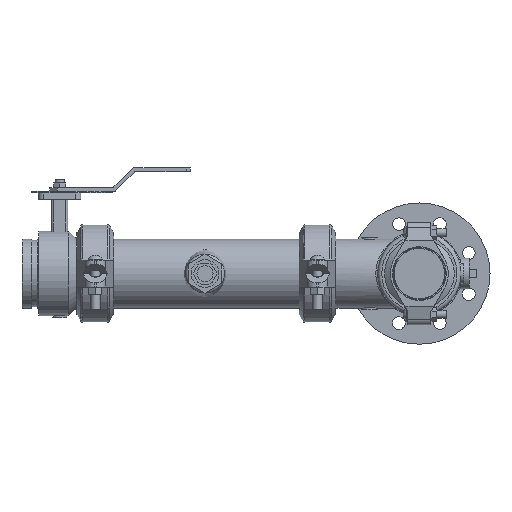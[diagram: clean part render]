
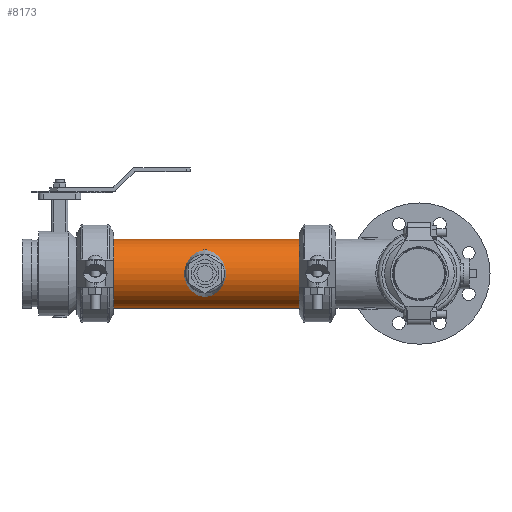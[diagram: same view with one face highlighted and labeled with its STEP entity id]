
A CAD part, left-side view. The second image highlights one B-rep face of the part: STEP entity #8173.
In plain terms, the highlighted cylindrical face has radius 57.15 mm (diameter 114.3 mm), a full revolution.
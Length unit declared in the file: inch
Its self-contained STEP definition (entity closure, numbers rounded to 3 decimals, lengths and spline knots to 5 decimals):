
#699=FACE_OUTER_BOUND('',#1201,.T.);
#1201=EDGE_LOOP('',(#6028,#6029,#6030,#6031,#6032,#6033));
#1747=CIRCLE('',#9020,2.25);
#1748=CIRCLE('',#9021,2.25);
#1749=CIRCLE('',#9023,2.25);
#1750=CIRCLE('',#9024,2.25);
#2214=LINE('',#13841,#2805);
#2805=VECTOR('',#10602,2.25);
#3509=VERTEX_POINT('',#13832);
#3510=VERTEX_POINT('',#13833);
#3511=VERTEX_POINT('',#13837);
#3512=VERTEX_POINT('',#13838);
#4421=EDGE_CURVE('',#3509,#3510,#1747,.T.);
#4422=EDGE_CURVE('',#3510,#3509,#1748,.T.);
#4423=EDGE_CURVE('',#3511,#3512,#1749,.T.);
#4424=EDGE_CURVE('',#3512,#3511,#1750,.T.);
#4425=EDGE_CURVE('',#3512,#3510,#2214,.T.);
#6028=ORIENTED_EDGE('',*,*,#4423,.F.);
#6029=ORIENTED_EDGE('',*,*,#4424,.F.);
#6030=ORIENTED_EDGE('',*,*,#4425,.T.);
#6031=ORIENTED_EDGE('',*,*,#4422,.T.);
#6032=ORIENTED_EDGE('',*,*,#4421,.T.);
#6033=ORIENTED_EDGE('',*,*,#4425,.F.);
#7453=CYLINDRICAL_SURFACE('',#9022,2.25);
#8173=ADVANCED_FACE('',(#699),#7453,.T.);
#9020=AXIS2_PLACEMENT_3D('',#13834,#10592,#10593);
#9021=AXIS2_PLACEMENT_3D('',#13835,#10594,#10595);
#9022=AXIS2_PLACEMENT_3D('',#13836,#10596,#10597);
#9023=AXIS2_PLACEMENT_3D('',#13839,#10598,#10599);
#9024=AXIS2_PLACEMENT_3D('',#13840,#10600,#10601);
#10592=DIRECTION('center_axis',(0.,-1.,0.));
#10593=DIRECTION('ref_axis',(1.,0.,0.));
#10594=DIRECTION('center_axis',(0.,-1.,0.));
#10595=DIRECTION('ref_axis',(1.,0.,0.));
#10596=DIRECTION('center_axis',(0.,-1.,0.));
#10597=DIRECTION('ref_axis',(1.,0.,0.));
#10598=DIRECTION('center_axis',(0.,-1.,0.));
#10599=DIRECTION('ref_axis',(1.,0.,0.));
#10600=DIRECTION('center_axis',(0.,-1.,0.));
#10601=DIRECTION('ref_axis',(1.,0.,0.));
#10602=DIRECTION('',(0.,1.,0.));
#13832=CARTESIAN_POINT('',(2.25,6.09,0.));
#13833=CARTESIAN_POINT('',(-2.25,6.09,0.));
#13834=CARTESIAN_POINT('Origin',(0.,6.09,0.));
#13835=CARTESIAN_POINT('Origin',(0.,6.09,0.));
#13836=CARTESIAN_POINT('Origin',(0.,0.,
0.));
#13837=CARTESIAN_POINT('',(2.25,-6.09,0.));
#13838=CARTESIAN_POINT('',(-2.25,-6.09,0.));
#13839=CARTESIAN_POINT('Origin',(0.,-6.09,0.));
#13840=CARTESIAN_POINT('Origin',(0.,-6.09,0.));
#13841=CARTESIAN_POINT('',(-2.25,0.,0.));
